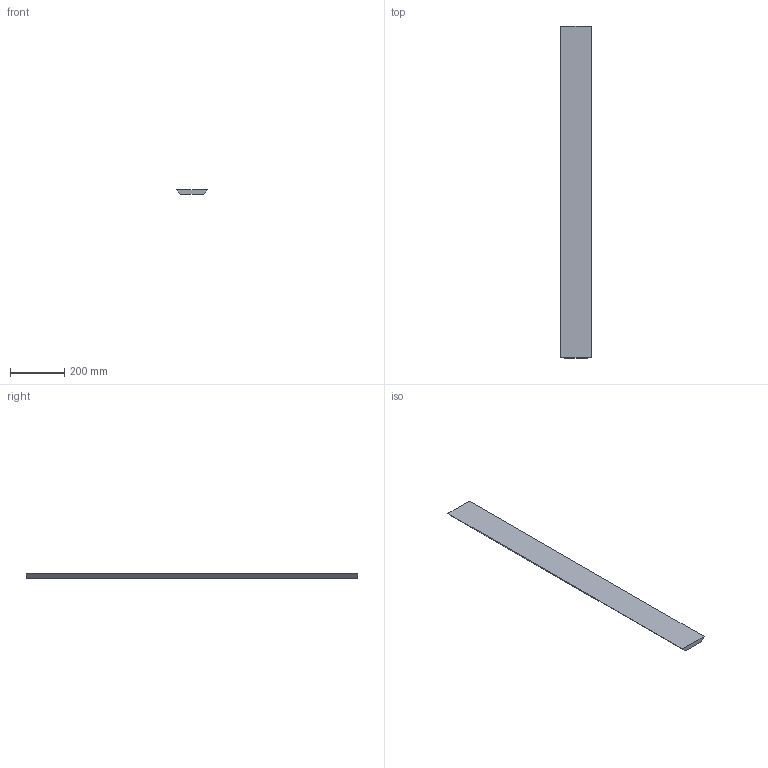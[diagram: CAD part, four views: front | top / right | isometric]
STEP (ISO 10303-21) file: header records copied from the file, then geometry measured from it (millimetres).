
FILE_DESCRIPTION (( 'STEP AP214' ), '1' );
FILE_NAME ('Ceiling Inserts Website.STEP', '2020-06-16T23:23:05', ( '' ), ( '' ), 'SwSTEP 2.0', 'SolidWorks 2020', '' );
FILE_SCHEMA (( 'AUTOMOTIVE_DESIGN' ));
Length unit declared in the file: inch
Products named in the file (1): Ceiling Inserts Website
Bounding box: 111.12 x 1219.2 x 15.88 mm (x, y, z)
Volume: 1889633.3 mm3; surface area: 291967.9 mm2
Topology: 1 solids, 1 shells, 6 faces, 12 edges, 8 vertices
Faces by surface type: plane 6
Entity records: 196 total; most frequent: CARTESIAN_POINT 27, DIRECTION 26, ORIENTED_EDGE 24, LINE 12, EDGE_CURVE 12, VECTOR 12, VERTEX_POINT 8, AXIS2_PLACEMENT_3D 7
